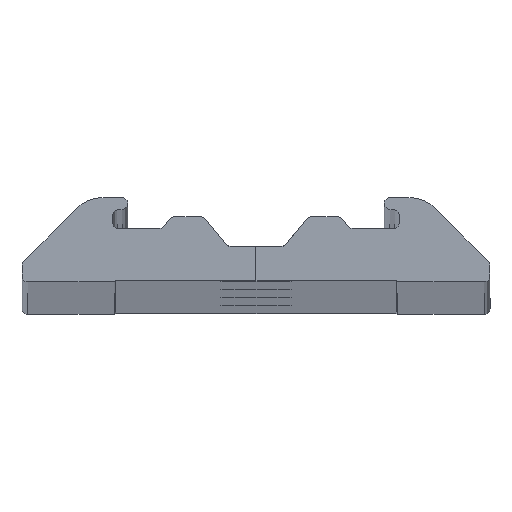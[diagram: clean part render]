
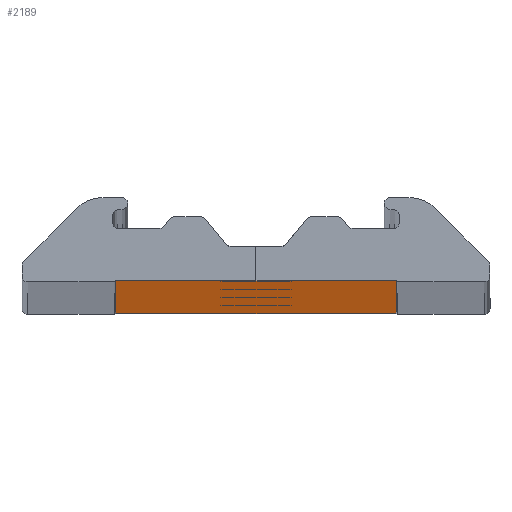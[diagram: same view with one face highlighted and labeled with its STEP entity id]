
A CAD part, top view. The second image highlights one B-rep face of the part: STEP entity #2189.
In plain terms, the highlighted planar face has unit normal (0, -1, 0).
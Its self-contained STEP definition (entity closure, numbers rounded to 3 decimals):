
#1 = FACE_OUTER_BOUND ( 'NONE', #97, .T. ) ;
#6 = CARTESIAN_POINT ( 'NONE',  ( 0., 0.05, -255.1 ) ) ;
#28 = DIRECTION ( 'NONE',  ( -1., 0., 0. ) ) ;
#41 = FACE_BOUND ( 'NONE', #2852, .T. ) ;
#59 = AXIS2_PLACEMENT_3D ( 'NONE', #3095, #247, #1561 ) ;
#81 = EDGE_CURVE ( 'NONE', #2775, #2089, #2120, .T. ) ;
#97 = EDGE_LOOP ( 'NONE', ( #125, #1172, #2904, #2766 ) ) ;
#125 = ORIENTED_EDGE ( 'NONE', *, *, #3464, .F. ) ;
#133 = DIRECTION ( 'NONE',  ( 0., 0., -1. ) ) ;
#195 = EDGE_LOOP ( 'NONE', ( #1321, #3746 ) ) ;
#247 = DIRECTION ( 'NONE',  ( 0., -1., 0. ) ) ;
#250 = DIRECTION ( 'NONE',  ( 0., 0., -1. ) ) ;
#289 = FACE_BOUND ( 'NONE', #3641, .T. ) ;
#323 = VERTEX_POINT ( 'NONE', #834 ) ;
#348 = CIRCLE ( 'NONE', #880, 1.9 ) ;
#400 = AXIS2_PLACEMENT_3D ( 'NONE', #2511, #3215, #2490 ) ;
#436 = CARTESIAN_POINT ( 'NONE',  ( -7.479, 0.05, 0. ) ) ;
#453 = CARTESIAN_POINT ( 'NONE',  ( 0., 0.05, -14. ) ) ;
#457 = EDGE_CURVE ( 'NONE', #2138, #2252, #590, .T. ) ;
#515 = VERTEX_POINT ( 'NONE', #1253 ) ;
#590 = CIRCLE ( 'NONE', #59, 1.25 ) ;
#597 = DIRECTION ( 'NONE',  ( 0., -1., 0. ) ) ;
#623 = FACE_BOUND ( 'NONE', #3074, .T. ) ;
#645 = FACE_BOUND ( 'NONE', #195, .T. ) ;
#727 = VERTEX_POINT ( 'NONE', #2746 ) ;
#729 = EDGE_CURVE ( 'NONE', #1427, #2892, #2834, .T. ) ;
#734 = CARTESIAN_POINT ( 'NONE',  ( 7.479, 0.05, 0. ) ) ;
#759 = CARTESIAN_POINT ( 'NONE',  ( 0., 0.05, -987.9 ) ) ;
#795 = DIRECTION ( 'NONE',  ( 0., 0., -1. ) ) ;
#834 = CARTESIAN_POINT ( 'NONE',  ( 0., 0.05, -12.1 ) ) ;
#879 = EDGE_CURVE ( 'NONE', #727, #3864, #932, .T. ) ;
#880 = AXIS2_PLACEMENT_3D ( 'NONE', #2970, #2741, #3973 ) ;
#901 = CARTESIAN_POINT ( 'NONE',  ( 0., 0.05, -743. ) ) ;
#918 = LINE ( 'NONE', #3448, #959 ) ;
#932 = LINE ( 'NONE', #3709, #4090 ) ;
#944 = EDGE_LOOP ( 'NONE', ( #2804, #3861 ) ) ;
#956 = DIRECTION ( 'NONE',  ( 1., 0., 0. ) ) ;
#959 = VECTOR ( 'NONE', #956, 1000. ) ;
#985 = VERTEX_POINT ( 'NONE', #2610 ) ;
#987 = CARTESIAN_POINT ( 'NONE',  ( 0., 0.05, -498.1 ) ) ;
#1026 = AXIS2_PLACEMENT_3D ( 'NONE', #3029, #1158, #2341 ) ;
#1127 = ORIENTED_EDGE ( 'NONE', *, *, #2097, .F. ) ;
#1158 = DIRECTION ( 'NONE',  ( 0., -1., 0. ) ) ;
#1172 = ORIENTED_EDGE ( 'NONE', *, *, #879, .T. ) ;
#1179 = EDGE_CURVE ( 'NONE', #985, #323, #2816, .T. ) ;
#1191 = EDGE_CURVE ( 'NONE', #2892, #1427, #348, .T. ) ;
#1244 = AXIS2_PLACEMENT_3D ( 'NONE', #901, #597, #2169 ) ;
#1253 = CARTESIAN_POINT ( 'NONE',  ( -7.479, 0.05, -1000. ) ) ;
#1268 = CARTESIAN_POINT ( 'NONE',  ( 0., 0.05, -986. ) ) ;
#1274 = DIRECTION ( 'NONE',  ( 0., -1., 0. ) ) ;
#1280 = DIRECTION ( 'NONE',  ( 0., 0., -1. ) ) ;
#1285 = CARTESIAN_POINT ( 'NONE',  ( 0., 0.05, -741.1 ) ) ;
#1304 = FACE_BOUND ( 'NONE', #2556, .T. ) ;
#1321 = ORIENTED_EDGE ( 'NONE', *, *, #729, .F. ) ;
#1360 = EDGE_CURVE ( 'NONE', #323, #985, #2096, .T. ) ;
#1401 = DIRECTION ( 'NONE',  ( 0., -1., 0. ) ) ;
#1427 = VERTEX_POINT ( 'NONE', #987 ) ;
#1501 = CIRCLE ( 'NONE', #3955, 1.25 ) ;
#1557 = DIRECTION ( 'NONE',  ( 0., 0., 1. ) ) ;
#1561 = DIRECTION ( 'NONE',  ( 0., 0., -1. ) ) ;
#1603 = CARTESIAN_POINT ( 'NONE',  ( 0., 0.05, -257. ) ) ;
#1626 = CIRCLE ( 'NONE', #1956, 1.9 ) ;
#1654 = DIRECTION ( 'NONE',  ( 0., -1., 0. ) ) ;
#1669 = EDGE_CURVE ( 'NONE', #2089, #2775, #3030, .T. ) ;
#1673 = CARTESIAN_POINT ( 'NONE',  ( 0., 0.05, -986. ) ) ;
#1705 = ORIENTED_EDGE ( 'NONE', *, *, #81, .F. ) ;
#1707 = AXIS2_PLACEMENT_3D ( 'NONE', #3492, #2191, #2208 ) ;
#1735 = CARTESIAN_POINT ( 'NONE',  ( 0., 0.05, -744.9 ) ) ;
#1831 = LINE ( 'NONE', #3098, #3232 ) ;
#1949 = PLANE ( 'NONE',  #400 ) ;
#1956 = AXIS2_PLACEMENT_3D ( 'NONE', #1603, #2796, #2204 ) ;
#1963 = CARTESIAN_POINT ( 'NONE',  ( 0., 0.05, -14. ) ) ;
#1985 = DIRECTION ( 'NONE',  ( 0., -1., 0. ) ) ;
#2030 = CARTESIAN_POINT ( 'NONE',  ( 0., 0.05, -984.1 ) ) ;
#2089 = VERTEX_POINT ( 'NONE', #1285 ) ;
#2096 = CIRCLE ( 'NONE', #3881, 1.9 ) ;
#2097 = EDGE_CURVE ( 'NONE', #2671, #2235, #2321, .T. ) ;
#2120 = CIRCLE ( 'NONE', #2253, 1.9 ) ;
#2138 = VERTEX_POINT ( 'NONE', #3835 ) ;
#2169 = DIRECTION ( 'NONE',  ( 0., 0., -1. ) ) ;
#2184 = DIRECTION ( 'NONE',  ( 0., 0., -1. ) ) ;
#2189 = ADVANCED_FACE ( 'NONE', ( #41, #623, #645, #1304, #289, #1, #2530 ), #1949, .T. ) ;
#2191 = DIRECTION ( 'NONE',  ( 0., -1., 0. ) ) ;
#2194 = AXIS2_PLACEMENT_3D ( 'NONE', #1268, #3174, #2184 ) ;
#2204 = DIRECTION ( 'NONE',  ( 0., 0., -1. ) ) ;
#2208 = DIRECTION ( 'NONE',  ( 0., 0., -1. ) ) ;
#2235 = VERTEX_POINT ( 'NONE', #2030 ) ;
#2252 = VERTEX_POINT ( 'NONE', #2301 ) ;
#2253 = AXIS2_PLACEMENT_3D ( 'NONE', #2846, #1274, #3762 ) ;
#2283 = CARTESIAN_POINT ( 'NONE',  ( -7.5, 0.05, -1000. ) ) ;
#2301 = CARTESIAN_POINT ( 'NONE',  ( 0., 0.05, -3.75 ) ) ;
#2321 = CIRCLE ( 'NONE', #2194, 1.9 ) ;
#2341 = DIRECTION ( 'NONE',  ( 0., 0., -1. ) ) ;
#2348 = CARTESIAN_POINT ( 'NONE',  ( 0., 0.05, -5. ) ) ;
#2473 = ORIENTED_EDGE ( 'NONE', *, *, #3138, .F. ) ;
#2490 = DIRECTION ( 'NONE',  ( 0., 0., -1. ) ) ;
#2497 = CIRCLE ( 'NONE', #1707, 1.9 ) ;
#2511 = CARTESIAN_POINT ( 'NONE',  ( -7.5, 0.05, -2160. ) ) ;
#2530 = FACE_BOUND ( 'NONE', #944, .T. ) ;
#2556 = EDGE_LOOP ( 'NONE', ( #2762, #1705 ) ) ;
#2610 = CARTESIAN_POINT ( 'NONE',  ( 0., 0.05, -15.9 ) ) ;
#2624 = ORIENTED_EDGE ( 'NONE', *, *, #2666, .F. ) ;
#2666 = EDGE_CURVE ( 'NONE', #2235, #2671, #3036, .T. ) ;
#2671 = VERTEX_POINT ( 'NONE', #759 ) ;
#2741 = DIRECTION ( 'NONE',  ( 0., -1., 0. ) ) ;
#2746 = CARTESIAN_POINT ( 'NONE',  ( 7.479, 0.05, -1000. ) ) ;
#2762 = ORIENTED_EDGE ( 'NONE', *, *, #1669, .F. ) ;
#2766 = ORIENTED_EDGE ( 'NONE', *, *, #3367, .T. ) ;
#2775 = VERTEX_POINT ( 'NONE', #1735 ) ;
#2796 = DIRECTION ( 'NONE',  ( 0., -1., 0. ) ) ;
#2804 = ORIENTED_EDGE ( 'NONE', *, *, #1360, .F. ) ;
#2816 = CIRCLE ( 'NONE', #3858, 1.9 ) ;
#2824 = CARTESIAN_POINT ( 'NONE',  ( 0., 0.05, -258.9 ) ) ;
#2834 = CIRCLE ( 'NONE', #1026, 1.9 ) ;
#2846 = CARTESIAN_POINT ( 'NONE',  ( 0., 0.05, -743. ) ) ;
#2851 = CARTESIAN_POINT ( 'NONE',  ( 0., 0.05, -501.9 ) ) ;
#2852 = EDGE_LOOP ( 'NONE', ( #2473, #3519 ) ) ;
#2887 = VERTEX_POINT ( 'NONE', #2824 ) ;
#2892 = VERTEX_POINT ( 'NONE', #2851 ) ;
#2904 = ORIENTED_EDGE ( 'NONE', *, *, #4075, .F. ) ;
#2918 = EDGE_CURVE ( 'NONE', #3272, #2887, #2497, .T. ) ;
#2970 = CARTESIAN_POINT ( 'NONE',  ( 0., 0.05, -500. ) ) ;
#3029 = CARTESIAN_POINT ( 'NONE',  ( 0., 0.05, -500. ) ) ;
#3030 = CIRCLE ( 'NONE', #1244, 1.9 ) ;
#3036 = CIRCLE ( 'NONE', #3623, 1.9 ) ;
#3074 = EDGE_LOOP ( 'NONE', ( #3219, #3494 ) ) ;
#3095 = CARTESIAN_POINT ( 'NONE',  ( 0., 0.05, -5. ) ) ;
#3098 = CARTESIAN_POINT ( 'NONE',  ( -7.479, 0.05, -2160. ) ) ;
#3138 = EDGE_CURVE ( 'NONE', #2252, #2138, #1501, .T. ) ;
#3174 = DIRECTION ( 'NONE',  ( 0., -1., 0. ) ) ;
#3215 = DIRECTION ( 'NONE',  ( 0., -1., 0. ) ) ;
#3219 = ORIENTED_EDGE ( 'NONE', *, *, #2918, .F. ) ;
#3232 = VECTOR ( 'NONE', #250, 1000. ) ;
#3272 = VERTEX_POINT ( 'NONE', #6 ) ;
#3367 = EDGE_CURVE ( 'NONE', #3630, #515, #1831, .T. ) ;
#3448 = CARTESIAN_POINT ( 'NONE',  ( -7.5, 0.05, 0. ) ) ;
#3464 = EDGE_CURVE ( 'NONE', #727, #515, #3819, .T. ) ;
#3492 = CARTESIAN_POINT ( 'NONE',  ( 0., 0.05, -257. ) ) ;
#3494 = ORIENTED_EDGE ( 'NONE', *, *, #4074, .F. ) ;
#3519 = ORIENTED_EDGE ( 'NONE', *, *, #457, .F. ) ;
#3559 = VECTOR ( 'NONE', #28, 1000. ) ;
#3600 = DIRECTION ( 'NONE',  ( 0., 0., -1. ) ) ;
#3623 = AXIS2_PLACEMENT_3D ( 'NONE', #1673, #1985, #133 ) ;
#3630 = VERTEX_POINT ( 'NONE', #436 ) ;
#3641 = EDGE_LOOP ( 'NONE', ( #2624, #1127 ) ) ;
#3642 = DIRECTION ( 'NONE',  ( 0., -1., 0. ) ) ;
#3709 = CARTESIAN_POINT ( 'NONE',  ( 7.479, 0.05, 0. ) ) ;
#3746 = ORIENTED_EDGE ( 'NONE', *, *, #1191, .F. ) ;
#3762 = DIRECTION ( 'NONE',  ( 0., 0., -1. ) ) ;
#3819 = LINE ( 'NONE', #2283, #3559 ) ;
#3835 = CARTESIAN_POINT ( 'NONE',  ( 0., 0.05, -6.25 ) ) ;
#3858 = AXIS2_PLACEMENT_3D ( 'NONE', #453, #3642, #3600 ) ;
#3861 = ORIENTED_EDGE ( 'NONE', *, *, #1179, .F. ) ;
#3864 = VERTEX_POINT ( 'NONE', #734 ) ;
#3881 = AXIS2_PLACEMENT_3D ( 'NONE', #1963, #1654, #1280 ) ;
#3955 = AXIS2_PLACEMENT_3D ( 'NONE', #2348, #1401, #795 ) ;
#3973 = DIRECTION ( 'NONE',  ( 0., 0., -1. ) ) ;
#4074 = EDGE_CURVE ( 'NONE', #2887, #3272, #1626, .T. ) ;
#4075 = EDGE_CURVE ( 'NONE', #3630, #3864, #918, .T. ) ;
#4090 = VECTOR ( 'NONE', #1557, 1000. ) ;
